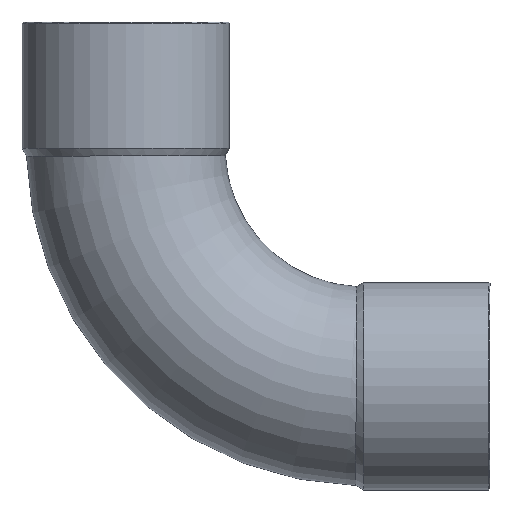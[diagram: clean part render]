
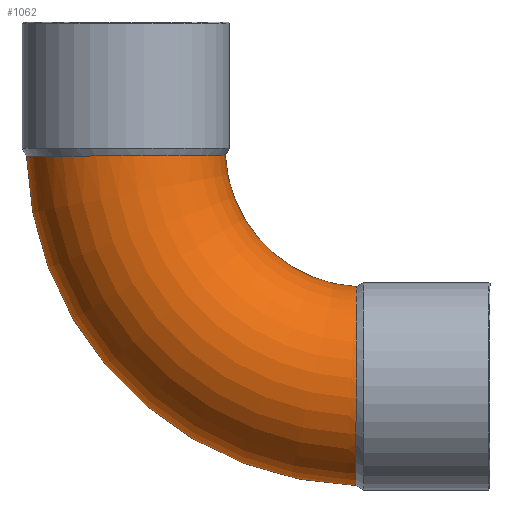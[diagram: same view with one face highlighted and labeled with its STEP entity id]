
A CAD part, front view. The second image highlights one B-rep face of the part: STEP entity #1062.
In plain terms, the highlighted toroidal (fillet/blend) face has major radius 64.8 mm and minor radius 27 mm.
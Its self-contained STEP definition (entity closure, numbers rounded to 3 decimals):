
#49=CARTESIAN_POINT('',(-69.737,0.,-2.248));
#50=VERTEX_POINT('',#49);
#51=CARTESIAN_POINT('',(19.787,0.,-91.772));
#52=VERTEX_POINT('',#51);
#53=CARTESIAN_POINT('',(22.035,0.,0.0));
#54=DIRECTION('',(0.0,-1.0,0.0));
#55=DIRECTION('',(0.0,0.0,-1.0));
#56=AXIS2_PLACEMENT_3D('',#53,#54,#55);
#57=CIRCLE('',#56,91.8);
#58=EDGE_CURVE('',#50,#52,#57,.T.);
#60=CARTESIAN_POINT('',(-15.707,0.,-2.099));
#61=VERTEX_POINT('',#60);
#85=CARTESIAN_POINT('',(19.936,0.,-37.742));
#86=VERTEX_POINT('',#85);
#87=CARTESIAN_POINT('',(22.035,0.,0.0));
#88=DIRECTION('',(0.0,1.0,0.0));
#89=DIRECTION('',(0.0,0.0,-1.0));
#90=AXIS2_PLACEMENT_3D('',#87,#88,#89);
#91=CIRCLE('',#90,37.8);
#92=EDGE_CURVE('',#86,#61,#91,.T.);
#226=CARTESIAN_POINT('',(-15.707,0.,-2.099));
#227=CARTESIAN_POINT('',(-15.707,-0.234,-2.099));
#228=CARTESIAN_POINT('',(-15.71,-0.468,-2.099));
#229=CARTESIAN_POINT('',(-15.807,-4.216,-2.1));
#230=CARTESIAN_POINT('',(-16.585,-7.677,-2.104));
#231=CARTESIAN_POINT('',(-19.424,-14.111,-2.119));
#232=CARTESIAN_POINT('',(-21.461,-17.021,-2.129));
#233=CARTESIAN_POINT('',(-26.535,-21.898,-2.151));
#234=CARTESIAN_POINT('',(-29.526,-23.818,-2.162));
#235=CARTESIAN_POINT('',(-36.073,-26.403,-2.183));
#236=CARTESIAN_POINT('',(-39.567,-27.044,-2.192));
#237=CARTESIAN_POINT('',(-46.604,-26.951,-2.209));
#238=CARTESIAN_POINT('',(-50.079,-26.218,-2.216));
#239=CARTESIAN_POINT('',(-56.55,-23.462,-2.228));
#240=CARTESIAN_POINT('',(-59.486,-21.465,-2.233));
#241=CARTESIAN_POINT('',(-64.425,-16.46,-2.24));
#242=CARTESIAN_POINT('',(-66.382,-13.5,-2.243));
#243=CARTESIAN_POINT('',(-69.051,-6.996,-2.247));
#244=CARTESIAN_POINT('',(-69.737,-3.515,-2.248));
#245=CARTESIAN_POINT('',(-69.737,0.,-2.248));
#246=B_SPLINE_CURVE_WITH_KNOTS('',3,(#226,#227,#228,#229,#230,#231,#232,#233,#234,#235,#236,#237,#238,#239,#240,#241,#242,#243,#244,#245),.UNSPECIFIED.,.F.,.U.,(4,2,2,2,2,2,2,2,2,4),(-8.511,-8.441,-7.386,-6.331,-5.275,-4.219,-3.164,-2.109,-1.054,0.0),.UNSPECIFIED.);
#247=EDGE_CURVE('',#61,#50,#246,.T.);
#1029=CARTESIAN_POINT('',(22.035,0.,0.0));
#1030=DIRECTION('',(0.0,-1.0,0.0));
#1031=DIRECTION('',(0.0,0.0,-1.0));
#1032=AXIS2_PLACEMENT_3D('',#1029,#1030,#1031);
#1033=TOROIDAL_SURFACE('',#1032,64.8,27.0);
#1034=ORIENTED_EDGE('',*,*,#58,.T.);
#1035=CARTESIAN_POINT('',(19.787,0.,-91.772));
#1036=CARTESIAN_POINT('',(19.787,-1.99,-91.772));
#1037=CARTESIAN_POINT('',(19.788,-3.974,-91.552));
#1038=CARTESIAN_POINT('',(19.789,-7.858,-90.68));
#1039=CARTESIAN_POINT('',(19.79,-9.746,-90.03));
#1040=CARTESIAN_POINT('',(19.793,-14.723,-87.675));
#1041=CARTESIAN_POINT('',(19.796,-17.577,-85.565));
#1042=CARTESIAN_POINT('',(19.804,-22.317,-80.368));
#1043=CARTESIAN_POINT('',(19.809,-24.157,-77.331));
#1044=CARTESIAN_POINT('',(19.822,-26.569,-70.72));
#1045=CARTESIAN_POINT('',(19.829,-27.118,-67.21));
#1046=CARTESIAN_POINT('',(19.846,-26.84,-60.177));
#1047=CARTESIAN_POINT('',(19.856,-26.015,-56.72));
#1048=CARTESIAN_POINT('',(19.877,-23.087,-50.319));
#1049=CARTESIAN_POINT('',(19.889,-21.013,-47.436));
#1050=CARTESIAN_POINT('',(19.91,-15.879,-42.629));
#1051=CARTESIAN_POINT('',(19.919,-12.869,-40.751));
#1052=CARTESIAN_POINT('',(19.932,-6.521,-38.338));
#1053=CARTESIAN_POINT('',(19.936,-3.273,-37.742));
#1054=CARTESIAN_POINT('',(19.936,0.,-37.742));
#1055=B_SPLINE_CURVE_WITH_KNOTS('',3,(#1035,#1036,#1037,#1038,#1039,#1040,#1041,#1042,#1043,#1044,#1045,#1046,#1047,#1048,#1049,#1050,#1051,#1052,#1053,#1054),.UNSPECIFIED.,.F.,.U.,(4,2,2,2,2,2,2,2,2,4),(-17.02,-16.423,-15.826,-14.771,-13.716,-12.66,-11.604,-10.549,-9.494,-8.511),.UNSPECIFIED.);
#1056=EDGE_CURVE('',#52,#86,#1055,.T.);
#1057=ORIENTED_EDGE('',*,*,#1056,.T.);
#1058=ORIENTED_EDGE('',*,*,#92,.T.);
#1059=ORIENTED_EDGE('',*,*,#247,.T.);
#1060=EDGE_LOOP('',(#1034,#1057,#1058,#1059));
#1061=FACE_OUTER_BOUND('',#1060,.T.);
#1062=ADVANCED_FACE('',(#1061),#1033,.T.);
